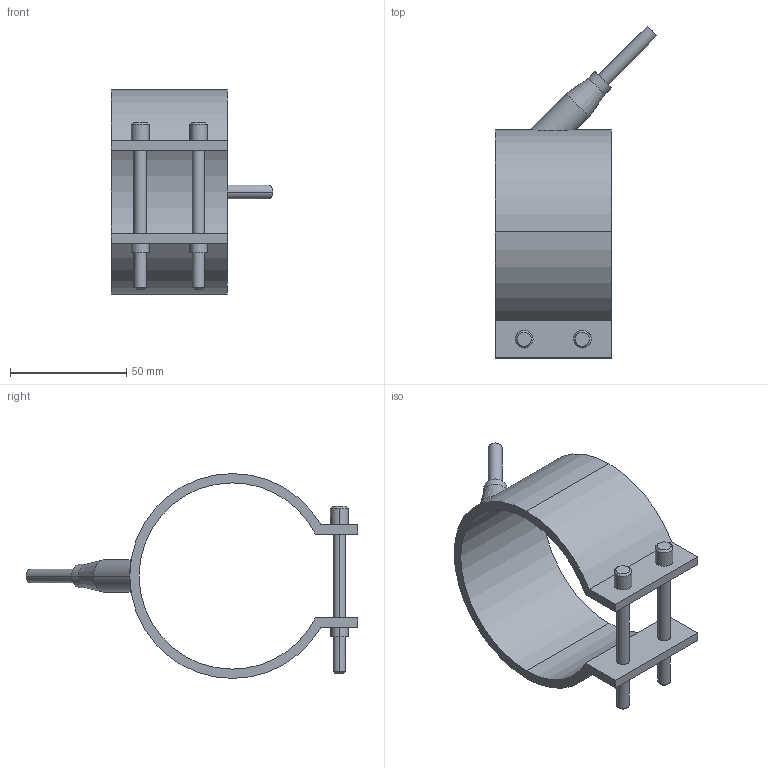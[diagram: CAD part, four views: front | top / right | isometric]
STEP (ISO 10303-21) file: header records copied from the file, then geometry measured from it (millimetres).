
FILE_DESCRIPTION(('CATIA V5 STEP Exchange'),'2;1');
FILE_NAME('C:\Users\Utente\Desktop\IO LAVORO\3D X SITO CF\X SITO\PLASTICA\RF1\29080050.stp','2021-03-29T18:08:34+00:00',('none'),('none'),'CATIA Version 5 Release 20 GA (IN-10)','CATIA V5 STEP AP203','none');
FILE_SCHEMA(('CONFIG_CONTROL_DESIGN'));
Length unit declared in the file: millimetre
Products named in the file (1): 29080050
Bounding box: 69.55 x 142.55 x 88 mm (x, y, z)
Volume: 59450.6 mm3; surface area: 31929.1 mm2
Topology: 1 solids, 1 shells, 54 faces, 123 edges, 79 vertices
Faces by surface type: cylinder 28, plane 16, cone 10
Entity records: 1740 total; most frequent: CARTESIAN_POINT 510, ORIENTED_EDGE 246, DIRECTION 212, EDGE_CURVE 123, AXIS2_PLACEMENT_3D 105, VERTEX_POINT 79, EDGE_LOOP 66, VECTOR 56
